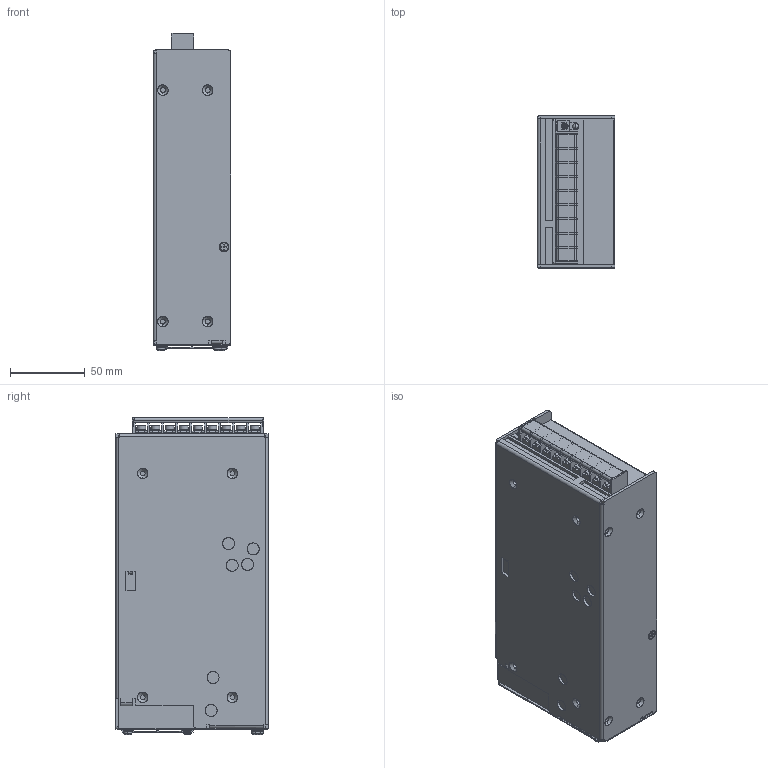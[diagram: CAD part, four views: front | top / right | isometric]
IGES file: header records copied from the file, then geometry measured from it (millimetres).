
Start section: SolidWorks IGES file using analytic representation for surfaces
Global section: file name: C:\sws300a_outline.IGS; native system: SolidWorks 2010; preprocessor: SolidWorks 2010; author: 46000946; date: 101220.161920; units: millimetre
Bounding box: 52 x 102 x 212.65 mm (x, y, z)
Surface area: 89241.5 mm2 (no closed solid volume)
Topology: 0 solids, 0 shells, 1236 faces, 12527 edges, 12515 vertices
Faces by surface type: bspline 833, revolution 403
